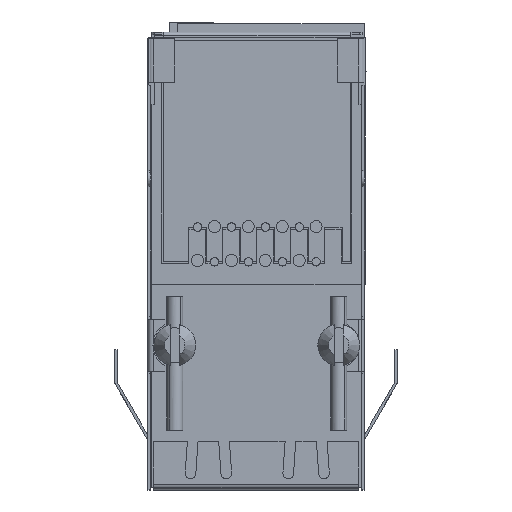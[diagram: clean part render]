
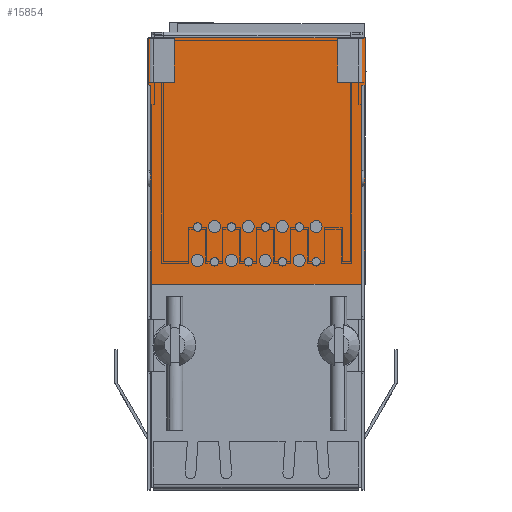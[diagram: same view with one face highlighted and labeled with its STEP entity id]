
A CAD part, top view. The second image highlights one B-rep face of the part: STEP entity #15854.
In plain terms, the highlighted planar face has unit normal (0, 0, 1) as drawn and (0, 0, -1) by its records, which use the part's own axes.
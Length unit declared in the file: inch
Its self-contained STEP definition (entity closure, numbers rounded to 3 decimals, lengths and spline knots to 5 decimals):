
#14464=CARTESIAN_POINT('',(-0.01284,1.09951,0.001));
#14465=VERTEX_POINT('',#14464);
#14483=CARTESIAN_POINT('',(0.02259,1.09951,0.001));
#14484=VERTEX_POINT('',#14483);
#14506=CARTESIAN_POINT('',(-0.11284,1.09951,0.001));
#14507=VERTEX_POINT('',#14506);
#14525=CARTESIAN_POINT('',(-0.07741,1.09951,0.001));
#14526=VERTEX_POINT('',#14525);
#14548=CARTESIAN_POINT('',(-0.06284,1.19951,0.001));
#14549=VERTEX_POINT('',#14548);
#14567=CARTESIAN_POINT('',(-0.02741,1.19951,0.001));
#14568=VERTEX_POINT('',#14567);
#14590=CARTESIAN_POINT('',(0.23716,1.19951,0.001));
#14591=VERTEX_POINT('',#14590);
#14609=CARTESIAN_POINT('',(0.27259,1.19951,0.001));
#14610=VERTEX_POINT('',#14609);
#14632=CARTESIAN_POINT('',(0.18716,1.09951,0.001));
#14633=VERTEX_POINT('',#14632);
#14651=CARTESIAN_POINT('',(0.22259,1.09951,0.001));
#14652=VERTEX_POINT('',#14651);
#14674=CARTESIAN_POINT('',(0.13716,1.19951,0.001));
#14675=VERTEX_POINT('',#14674);
#14693=CARTESIAN_POINT('',(0.17259,1.19951,0.001));
#14694=VERTEX_POINT('',#14693);
#14716=CARTESIAN_POINT('',(0.03716,1.19951,0.001));
#14717=VERTEX_POINT('',#14716);
#14735=CARTESIAN_POINT('',(0.07259,1.19951,0.001));
#14736=VERTEX_POINT('',#14735);
#14758=CARTESIAN_POINT('',(0.08716,1.09951,0.001));
#14759=VERTEX_POINT('',#14758);
#14777=CARTESIAN_POINT('',(0.12259,1.09951,0.001));
#14778=VERTEX_POINT('',#14777);
#15091=CARTESIAN_POINT('',(-0.09512,1.09951,0.001));
#15092=DIRECTION('',(0.0,0.0,-1.0));
#15093=DIRECTION('',(-1.0,0.0,0.0));
#15094=AXIS2_PLACEMENT_3D('',#15091,#15092,#15093);
#15095=CIRCLE('',#15094,0.01772);
#15096=EDGE_CURVE('',#14526,#14507,#15095,.T.);
#15141=CARTESIAN_POINT('',(0.25488,1.19951,0.001));
#15142=DIRECTION('',(0.0,0.0,-1.0));
#15143=DIRECTION('',(-1.0,0.0,0.0));
#15144=AXIS2_PLACEMENT_3D('',#15141,#15142,#15143);
#15145=CIRCLE('',#15144,0.01772);
#15146=EDGE_CURVE('',#14610,#14591,#15145,.T.);
#15191=CARTESIAN_POINT('',(0.15488,1.19951,0.001));
#15192=DIRECTION('',(0.0,0.0,-1.0));
#15193=DIRECTION('',(-1.0,0.0,0.0));
#15194=AXIS2_PLACEMENT_3D('',#15191,#15192,#15193);
#15195=CIRCLE('',#15194,0.01772);
#15196=EDGE_CURVE('',#14694,#14675,#15195,.T.);
#15241=CARTESIAN_POINT('',(0.10488,1.09951,0.001));
#15242=DIRECTION('',(0.0,0.0,-1.0));
#15243=DIRECTION('',(-1.0,0.0,0.0));
#15244=AXIS2_PLACEMENT_3D('',#15241,#15242,#15243);
#15245=CIRCLE('',#15244,0.01772);
#15246=EDGE_CURVE('',#14778,#14759,#15245,.T.);
#15291=CARTESIAN_POINT('',(0.05488,1.19951,0.001));
#15292=DIRECTION('',(0.0,0.0,-1.0));
#15293=DIRECTION('',(-1.0,0.0,0.0));
#15294=AXIS2_PLACEMENT_3D('',#15291,#15292,#15293);
#15295=CIRCLE('',#15294,0.01772);
#15296=EDGE_CURVE('',#14736,#14717,#15295,.T.);
#15341=CARTESIAN_POINT('',(0.20488,1.09951,0.001));
#15342=DIRECTION('',(0.0,0.0,-1.0));
#15343=DIRECTION('',(-1.0,0.0,0.0));
#15344=AXIS2_PLACEMENT_3D('',#15341,#15342,#15343);
#15345=CIRCLE('',#15344,0.01772);
#15346=EDGE_CURVE('',#14652,#14633,#15345,.T.);
#15391=CARTESIAN_POINT('',(-0.04512,1.19951,0.001));
#15392=DIRECTION('',(0.0,0.0,-1.0));
#15393=DIRECTION('',(-1.0,0.0,0.0));
#15394=AXIS2_PLACEMENT_3D('',#15391,#15392,#15393);
#15395=CIRCLE('',#15394,0.01772);
#15396=EDGE_CURVE('',#14568,#14549,#15395,.T.);
#15441=CARTESIAN_POINT('',(0.00488,1.09951,0.001));
#15442=DIRECTION('',(0.0,0.0,-1.0));
#15443=DIRECTION('',(-1.0,0.0,0.0));
#15444=AXIS2_PLACEMENT_3D('',#15441,#15442,#15443);
#15445=CIRCLE('',#15444,0.01772);
#15446=EDGE_CURVE('',#14484,#14465,#15445,.T.);
#15457=CARTESIAN_POINT('',(0.10488,1.09951,0.001));
#15458=DIRECTION('',(0.0,0.0,-1.0));
#15459=DIRECTION('',(0.0,-1.0,0.0));
#15460=AXIS2_PLACEMENT_3D('',#15457,#15458,#15459);
#15461=CIRCLE('',#15460,0.01772);
#15462=EDGE_CURVE('',#14759,#14778,#15461,.T.);
#15481=CARTESIAN_POINT('',(0.05488,1.19951,0.001));
#15482=DIRECTION('',(0.0,0.0,-1.0));
#15483=DIRECTION('',(0.0,-1.0,0.0));
#15484=AXIS2_PLACEMENT_3D('',#15481,#15482,#15483);
#15485=CIRCLE('',#15484,0.01772);
#15486=EDGE_CURVE('',#14717,#14736,#15485,.T.);
#15505=CARTESIAN_POINT('',(0.15488,1.19951,0.001));
#15506=DIRECTION('',(0.0,0.0,-1.0));
#15507=DIRECTION('',(0.0,-1.0,0.0));
#15508=AXIS2_PLACEMENT_3D('',#15505,#15506,#15507);
#15509=CIRCLE('',#15508,0.01772);
#15510=EDGE_CURVE('',#14675,#14694,#15509,.T.);
#15529=CARTESIAN_POINT('',(0.20488,1.09951,0.001));
#15530=DIRECTION('',(0.0,0.0,-1.0));
#15531=DIRECTION('',(0.0,-1.0,0.0));
#15532=AXIS2_PLACEMENT_3D('',#15529,#15530,#15531);
#15533=CIRCLE('',#15532,0.01772);
#15534=EDGE_CURVE('',#14633,#14652,#15533,.T.);
#15553=CARTESIAN_POINT('',(0.25488,1.19951,0.001));
#15554=DIRECTION('',(0.0,0.0,-1.0));
#15555=DIRECTION('',(0.0,-1.0,0.0));
#15556=AXIS2_PLACEMENT_3D('',#15553,#15554,#15555);
#15557=CIRCLE('',#15556,0.01772);
#15558=EDGE_CURVE('',#14591,#14610,#15557,.T.);
#15577=CARTESIAN_POINT('',(-0.04512,1.19951,0.001));
#15578=DIRECTION('',(0.0,0.0,-1.0));
#15579=DIRECTION('',(0.0,-1.0,0.0));
#15580=AXIS2_PLACEMENT_3D('',#15577,#15578,#15579);
#15581=CIRCLE('',#15580,0.01772);
#15582=EDGE_CURVE('',#14549,#14568,#15581,.T.);
#15601=CARTESIAN_POINT('',(-0.09512,1.09951,0.001));
#15602=DIRECTION('',(0.0,0.0,-1.0));
#15603=DIRECTION('',(0.0,-1.0,0.0));
#15604=AXIS2_PLACEMENT_3D('',#15601,#15602,#15603);
#15605=CIRCLE('',#15604,0.01772);
#15606=EDGE_CURVE('',#14507,#14526,#15605,.T.);
#15625=CARTESIAN_POINT('',(0.00488,1.09951,0.001));
#15626=DIRECTION('',(0.0,0.0,-1.0));
#15627=DIRECTION('',(0.0,-1.0,0.0));
#15628=AXIS2_PLACEMENT_3D('',#15625,#15626,#15627);
#15629=CIRCLE('',#15628,0.01772);
#15630=EDGE_CURVE('',#14465,#14484,#15629,.T.);
#15648=CARTESIAN_POINT('',(-0.24001,0.54144,0.001));
#15649=VERTEX_POINT('',#15648);
#15650=CARTESIAN_POINT('',(-0.24001,1.26991,0.001));
#15651=VERTEX_POINT('',#15650);
#15652=CARTESIAN_POINT('',(-0.24001,0.54144,0.001));
#15653=DIRECTION('',(0.0,1.0,0.0));
#15654=VECTOR('',#15653,0.72848);
#15655=LINE('',#15652,#15654);
#15656=EDGE_CURVE('',#15649,#15651,#15655,.T.);
#15688=CARTESIAN_POINT('',(0.39976,1.26991,0.001));
#15689=VERTEX_POINT('',#15688);
#15690=CARTESIAN_POINT('',(-0.24001,1.26991,0.001));
#15691=DIRECTION('',(1.0,0.0,0.0));
#15692=VECTOR('',#15691,0.63976);
#15693=LINE('',#15690,#15692);
#15694=EDGE_CURVE('',#15651,#15689,#15693,.T.);
#15719=CARTESIAN_POINT('',(0.39976,0.54144,0.001));
#15720=VERTEX_POINT('',#15719);
#15721=CARTESIAN_POINT('',(0.39976,1.26991,0.001));
#15722=DIRECTION('',(0.,-1.0,0.0));
#15723=VECTOR('',#15722,0.72848);
#15724=LINE('',#15721,#15723);
#15725=EDGE_CURVE('',#15689,#15720,#15724,.T.);
#15750=CARTESIAN_POINT('',(0.39976,0.54144,0.001));
#15751=DIRECTION('',(-1.0,0.0,0.0));
#15752=VECTOR('',#15751,0.63976);
#15753=LINE('',#15750,#15752);
#15754=EDGE_CURVE('',#15720,#15649,#15753,.T.);
#15811=CARTESIAN_POINT('',(-0.27199,0.50501,0.001));
#15812=DIRECTION('',(0.0,0.0,1.0));
#15813=DIRECTION('',(1.0,0.0,0.0));
#15814=AXIS2_PLACEMENT_3D('',#15811,#15812,#15813);
#15815=PLANE('',#15814);
#15816=ORIENTED_EDGE('',*,*,#15656,.T.);
#15817=ORIENTED_EDGE('',*,*,#15694,.T.);
#15818=ORIENTED_EDGE('',*,*,#15725,.T.);
#15819=ORIENTED_EDGE('',*,*,#15754,.T.);
#15820=EDGE_LOOP('',(#15816,#15817,#15818,#15819));
#15821=FACE_OUTER_BOUND('',#15820,.T.);
#15822=ORIENTED_EDGE('',*,*,#15246,.F.);
#15823=ORIENTED_EDGE('',*,*,#15462,.F.);
#15824=EDGE_LOOP('',(#15822,#15823));
#15825=FACE_BOUND('',#15824,.T.);
#15826=ORIENTED_EDGE('',*,*,#15296,.F.);
#15827=ORIENTED_EDGE('',*,*,#15486,.F.);
#15828=EDGE_LOOP('',(#15826,#15827));
#15829=FACE_BOUND('',#15828,.T.);
#15830=ORIENTED_EDGE('',*,*,#15196,.F.);
#15831=ORIENTED_EDGE('',*,*,#15510,.F.);
#15832=EDGE_LOOP('',(#15830,#15831));
#15833=FACE_BOUND('',#15832,.T.);
#15834=ORIENTED_EDGE('',*,*,#15346,.F.);
#15835=ORIENTED_EDGE('',*,*,#15534,.F.);
#15836=EDGE_LOOP('',(#15834,#15835));
#15837=FACE_BOUND('',#15836,.T.);
#15838=ORIENTED_EDGE('',*,*,#15146,.F.);
#15839=ORIENTED_EDGE('',*,*,#15558,.F.);
#15840=EDGE_LOOP('',(#15838,#15839));
#15841=FACE_BOUND('',#15840,.T.);
#15842=ORIENTED_EDGE('',*,*,#15396,.F.);
#15843=ORIENTED_EDGE('',*,*,#15582,.F.);
#15844=EDGE_LOOP('',(#15842,#15843));
#15845=FACE_BOUND('',#15844,.T.);
#15846=ORIENTED_EDGE('',*,*,#15096,.F.);
#15847=ORIENTED_EDGE('',*,*,#15606,.F.);
#15848=EDGE_LOOP('',(#15846,#15847));
#15849=FACE_BOUND('',#15848,.T.);
#15850=ORIENTED_EDGE('',*,*,#15446,.F.);
#15851=ORIENTED_EDGE('',*,*,#15630,.F.);
#15852=EDGE_LOOP('',(#15850,#15851));
#15853=FACE_BOUND('',#15852,.T.);
#15854=ADVANCED_FACE('',(#15821,#15825,#15829,#15833,#15837,#15841,#15845,#15849,#15853),#15815,.F.);
